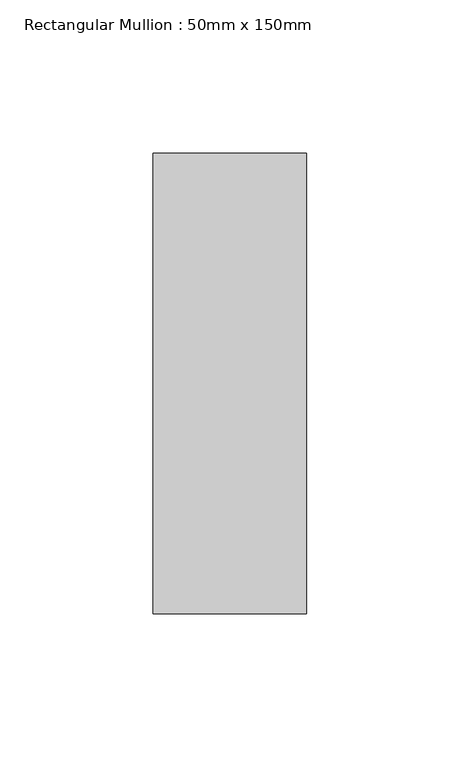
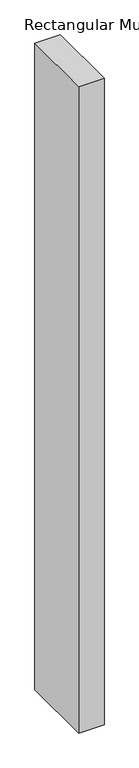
"""IFC4 building model written with IfcOpenShell, lengths in millimetres: member geometry, Rectangular Mullion : 50mm x 150mm."""

from ifc_helpers import new_model, si_unit, frame, origin, place, context, project, spatial, polyline, outline, extrude, source, transform, mapped, element, save


def rectangular_mullion_50mm_x_150mm_2ecc1500(model_context):
    return source(origin(), model_context, "Body", "SweptSolid", [
        extrude(outline(polyline([(0.0, 75.0), (0.0, -75.0), (-50.0, -75.0), (-50.0, 75.0), (0.0, 75.0)])), frame((0.0, 0.0, -1349.9999999), z_axis=(0.0, 0.0, 1.0), x_axis=(1.0, 0.0, 0.0)), (0.0, 0.0, 1.0), 1349.9999999),
    ])


if __name__ == "__main__":
    model = new_model("IFC4")
    model_context = context("Model", 3, world=origin())
    ifc_project = project(units=[si_unit("LENGTHUNIT", "METRE", prefix="MILLI")], contexts=[model_context])
    site = spatial("IfcSite", under=ifc_project)
    building = spatial("IfcBuilding", under=site)
    placement = place(None, origin())
    rectangular_mullion_50mm_x_150mm_shape = rectangular_mullion_50mm_x_150mm_2ecc1500(model_context)
    element("IfcMember", 1, ObjectType="Rectangular Mullion : 50mm x 150mm", at=placement, inside=building, context=model_context, shape_type="MappedRepresentation", body=[
        mapped(rectangular_mullion_50mm_x_150mm_shape, transform((0.0, 0.0, 0.0), x_axis=(1.0, 0.0, 0.0), y_axis=(0.0, 1.0, 0.0), z_axis=(0.0, 0.0, 1.0))),
    ])
    save(model, "model.ifc")
